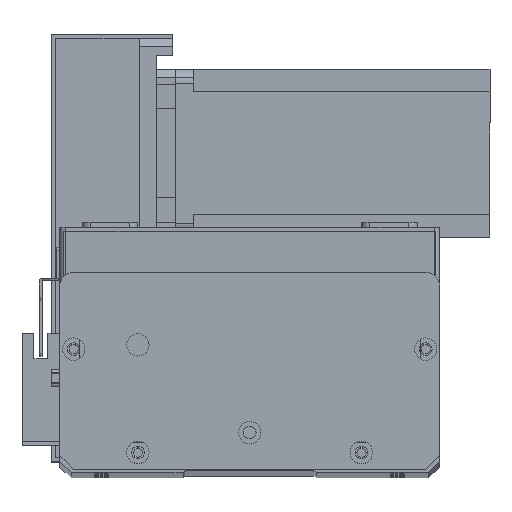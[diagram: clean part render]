
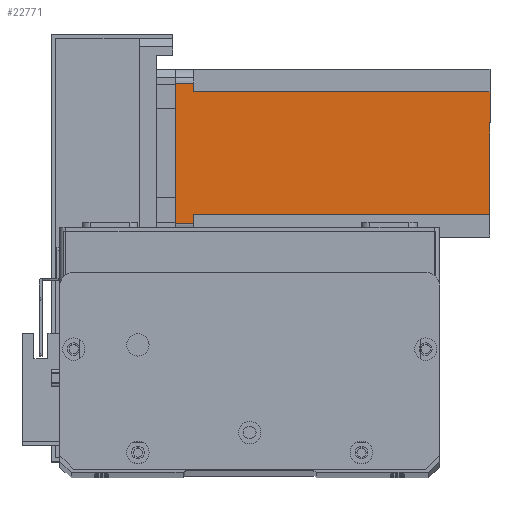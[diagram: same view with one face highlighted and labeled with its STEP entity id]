
A CAD part, top view. The second image highlights one B-rep face of the part: STEP entity #22771.
In plain terms, the highlighted planar face has unit normal (0, 0, 1) as drawn and (0, -1, 0) by its records, which use the part's own axes.
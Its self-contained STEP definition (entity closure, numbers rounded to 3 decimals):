
#273 = EDGE_LOOP ( 'NONE', ( #20915, #16479, #23497, #9771, #4406, #11892, #7673, #10330 ) ) ;
#523 = CARTESIAN_POINT ( 'NONE',  ( 52., 0., -112.5 ) ) ;
#601 = VERTEX_POINT ( 'NONE', #23144 ) ;
#1486 = FACE_OUTER_BOUND ( 'NONE', #273, .T. ) ;
#1538 = EDGE_CURVE ( 'NONE', #5991, #25392, #8338, .T. ) ;
#1915 = DIRECTION ( 'NONE',  ( 0., 0., -1. ) ) ;
#4406 = ORIENTED_EDGE ( 'NONE', *, *, #10114, .F. ) ;
#5972 = DIRECTION ( 'NONE',  ( 0., 0., 1. ) ) ;
#5991 = VERTEX_POINT ( 'NONE', #10333 ) ;
#6087 = LINE ( 'NONE', #28115, #12804 ) ;
#6411 = PLANE ( 'NONE',  #16309 ) ;
#7026 = DIRECTION ( 'NONE',  ( 1., 0., 0. ) ) ;
#7371 = LINE ( 'NONE', #7650, #26072 ) ;
#7650 = CARTESIAN_POINT ( 'NONE',  ( 8., 0., -112.5 ) ) ;
#7673 = ORIENTED_EDGE ( 'NONE', *, *, #25563, .T. ) ;
#8338 = LINE ( 'NONE', #25861, #9776 ) ;
#8520 = DIRECTION ( 'NONE',  ( 1., 0., 0. ) ) ;
#8877 = LINE ( 'NONE', #22052, #10314 ) ;
#9289 = VECTOR ( 'NONE', #5972, 1000. ) ;
#9771 = ORIENTED_EDGE ( 'NONE', *, *, #26693, .T. ) ;
#9776 = VECTOR ( 'NONE', #28756, 1000. ) ;
#10114 = EDGE_CURVE ( 'NONE', #17229, #601, #25975, .T. ) ;
#10314 = VECTOR ( 'NONE', #8520, 1000. ) ;
#10330 = ORIENTED_EDGE ( 'NONE', *, *, #1538, .F. ) ;
#10333 = CARTESIAN_POINT ( 'NONE',  ( 52., 0., -6.5 ) ) ;
#10628 = CARTESIAN_POINT ( 'NONE',  ( 5., 0., 0. ) ) ;
#10899 = CARTESIAN_POINT ( 'NONE',  ( 5., 0., -112.5 ) ) ;
#11868 = CARTESIAN_POINT ( 'NONE',  ( 55., 0., 0. ) ) ;
#11892 = ORIENTED_EDGE ( 'NONE', *, *, #15919, .F. ) ;
#12318 = VECTOR ( 'NONE', #7026, 1000. ) ;
#12632 = CARTESIAN_POINT ( 'NONE',  ( 8., 0., -112.5 ) ) ;
#12804 = VECTOR ( 'NONE', #14654, 1000. ) ;
#14366 = VERTEX_POINT ( 'NONE', #11868 ) ;
#14654 = DIRECTION ( 'NONE',  ( 1., 0., 0. ) ) ;
#14925 = EDGE_CURVE ( 'NONE', #22182, #14366, #8877, .T. ) ;
#15480 = DIRECTION ( 'NONE',  ( 0., -1., 0. ) ) ;
#15919 = EDGE_CURVE ( 'NONE', #28482, #17229, #7371, .T. ) ;
#15964 = LINE ( 'NONE', #23965, #9289 ) ;
#15987 = CARTESIAN_POINT ( 'NONE',  ( 52., 0., -6.5 ) ) ;
#16309 = AXIS2_PLACEMENT_3D ( 'NONE', #28939, #15480, #1915 ) ;
#16479 = ORIENTED_EDGE ( 'NONE', *, *, #25647, .T. ) ;
#16962 = VECTOR ( 'NONE', #17652, 1000. ) ;
#17229 = VERTEX_POINT ( 'NONE', #19243 ) ;
#17327 = DIRECTION ( 'NONE',  ( -1., 0., 0. ) ) ;
#17652 = DIRECTION ( 'NONE',  ( 0., 0., -1. ) ) ;
#18302 = LINE ( 'NONE', #15987, #12318 ) ;
#19243 = CARTESIAN_POINT ( 'NONE',  ( 8., 0., -6.5 ) ) ;
#19973 = VECTOR ( 'NONE', #17327, 1000. ) ;
#20915 = ORIENTED_EDGE ( 'NONE', *, *, #28120, .T. ) ;
#22052 = CARTESIAN_POINT ( 'NONE',  ( 0., 0., 0. ) ) ;
#22182 = VERTEX_POINT ( 'NONE', #10628 ) ;
#22771 = ADVANCED_FACE ( 'NONE', ( #1486 ), #6411, .T. ) ;
#23144 = CARTESIAN_POINT ( 'NONE',  ( 5., 0., -6.5 ) ) ;
#23375 = DIRECTION ( 'NONE',  ( 0., 0., 1. ) ) ;
#23497 = ORIENTED_EDGE ( 'NONE', *, *, #14925, .F. ) ;
#23965 = CARTESIAN_POINT ( 'NONE',  ( 55., 0., -112.5 ) ) ;
#25295 = VERTEX_POINT ( 'NONE', #27173 ) ;
#25392 = VERTEX_POINT ( 'NONE', #523 ) ;
#25563 = EDGE_CURVE ( 'NONE', #28482, #25392, #6087, .T. ) ;
#25647 = EDGE_CURVE ( 'NONE', #25295, #14366, #15964, .T. ) ;
#25861 = CARTESIAN_POINT ( 'NONE',  ( 52., 0., -112.5 ) ) ;
#25975 = LINE ( 'NONE', #28520, #19973 ) ;
#26072 = VECTOR ( 'NONE', #23375, 1000. ) ;
#26693 = EDGE_CURVE ( 'NONE', #22182, #601, #28909, .T. ) ;
#27173 = CARTESIAN_POINT ( 'NONE',  ( 55., 0., -6.5 ) ) ;
#28115 = CARTESIAN_POINT ( 'NONE',  ( 0., 0., -112.5 ) ) ;
#28120 = EDGE_CURVE ( 'NONE', #5991, #25295, #18302, .T. ) ;
#28482 = VERTEX_POINT ( 'NONE', #12632 ) ;
#28520 = CARTESIAN_POINT ( 'NONE',  ( 8., 0., -6.5 ) ) ;
#28756 = DIRECTION ( 'NONE',  ( 0., 0., -1. ) ) ;
#28909 = LINE ( 'NONE', #10899, #16962 ) ;
#28939 = CARTESIAN_POINT ( 'NONE',  ( 0., 0., -112.5 ) ) ;
